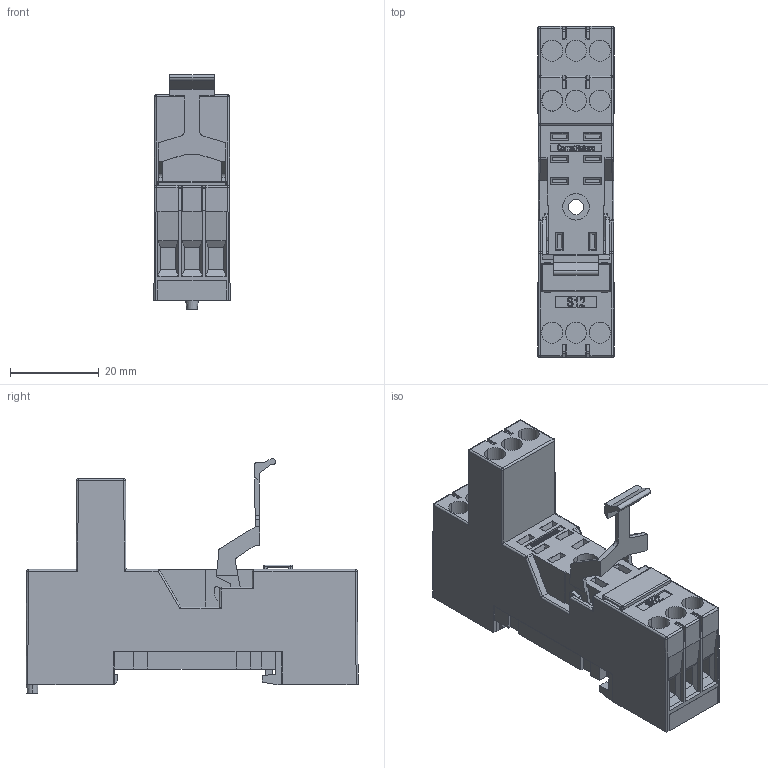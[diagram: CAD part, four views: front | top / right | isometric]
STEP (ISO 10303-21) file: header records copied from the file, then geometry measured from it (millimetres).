
FILE_DESCRIPTION (( 'STEP AP214' ), '1' );
FILE_NAME ('S12.STEP', '2024-04-11T06:27:31', ( '' ), ( '' ), 'SwSTEP 2.0', 'SolidWorks 2022', '' );
FILE_SCHEMA (( 'AUTOMOTIVE_DESIGN' ));
Length unit declared in the file: millimetre
Products named in the file (1): S12
Bounding box: 17.2 x 75.03 x 53.05 mm (x, y, z)
Volume: 29148.2 mm3; surface area: 16225.4 mm2
Topology: 1 solids, 19 shells, 1238 faces, 3267 edges, 2089 vertices
Faces by surface type: plane 910, cylinder 195, bspline 120, cone 9, sphere 4
Entity records: 54843 total; most frequent: CARTESIAN_POINT 13110, ORIENTED_EDGE 6518, DIRECTION 5324, EDGE_CURVE 3259, VECTOR 2656, LINE 2656, VERTEX_POINT 2089, AXIS2_PLACEMENT_3D 1334
